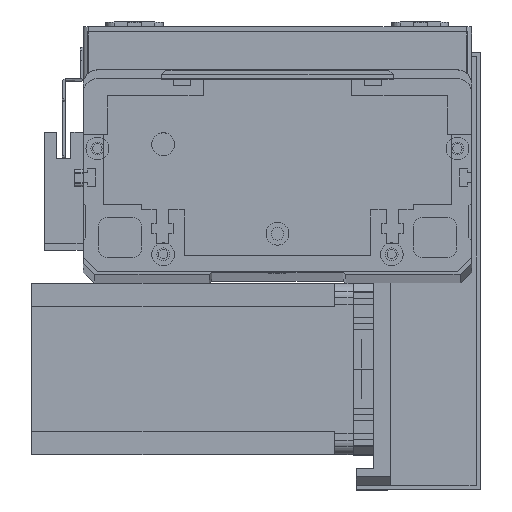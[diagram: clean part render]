
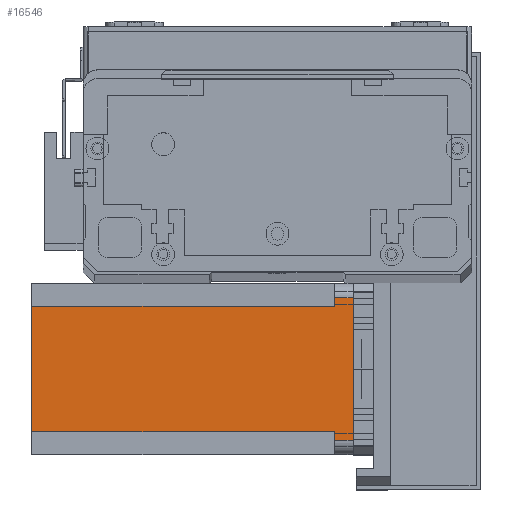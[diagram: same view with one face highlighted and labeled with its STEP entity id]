
A CAD part, top view. The second image highlights one B-rep face of the part: STEP entity #16546.
In plain terms, the highlighted planar face has unit normal (0, 0, 1) as drawn and (0, -1, 0) by its records, which use the part's own axes.
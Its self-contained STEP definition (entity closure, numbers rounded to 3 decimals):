
#441 = EDGE_CURVE ( 'NONE', #26133, #1637, #23125, .T. ) ;
#1163 = ORIENTED_EDGE ( 'NONE', *, *, #14217, .T. ) ;
#1637 = VERTEX_POINT ( 'NONE', #16424 ) ;
#1788 = VERTEX_POINT ( 'NONE', #9363 ) ;
#2490 = DIRECTION ( 'NONE',  ( 1., 0., 0. ) ) ;
#3461 = CARTESIAN_POINT ( 'NONE',  ( 5., 0., -112.5 ) ) ;
#3553 = DIRECTION ( 'NONE',  ( -1., 0., 0. ) ) ;
#3617 = ORIENTED_EDGE ( 'NONE', *, *, #441, .T. ) ;
#3639 = EDGE_LOOP ( 'NONE', ( #3617, #6269, #21401, #18724, #21428, #5772, #1163, #8796 ) ) ;
#3916 = EDGE_CURVE ( 'NONE', #23980, #24184, #23013, .T. ) ;
#3956 = CARTESIAN_POINT ( 'NONE',  ( 52., 0., -112.5 ) ) ;
#4244 = EDGE_CURVE ( 'NONE', #26133, #14030, #15903, .T. ) ;
#5248 = DIRECTION ( 'NONE',  ( 1., 0., 0. ) ) ;
#5398 = LINE ( 'NONE', #24529, #29046 ) ;
#5435 = CARTESIAN_POINT ( 'NONE',  ( 52., 0., -112.5 ) ) ;
#5772 = ORIENTED_EDGE ( 'NONE', *, *, #8271, .F. ) ;
#6269 = ORIENTED_EDGE ( 'NONE', *, *, #23984, .T. ) ;
#6714 = VECTOR ( 'NONE', #15249, 1000. ) ;
#7215 = CARTESIAN_POINT ( 'NONE',  ( 52., 0., -6.5 ) ) ;
#7977 = DIRECTION ( 'NONE',  ( 0., 0., 1. ) ) ;
#8271 = EDGE_CURVE ( 'NONE', #18511, #23980, #27732, .T. ) ;
#8435 = DIRECTION ( 'NONE',  ( 1., 0., 0. ) ) ;
#8796 = ORIENTED_EDGE ( 'NONE', *, *, #4244, .F. ) ;
#9363 = CARTESIAN_POINT ( 'NONE',  ( 55., 0., 0. ) ) ;
#9450 = AXIS2_PLACEMENT_3D ( 'NONE', #23934, #26191, #12508 ) ;
#9498 = VECTOR ( 'NONE', #21683, 1000. ) ;
#10133 = DIRECTION ( 'NONE',  ( 0., 0., -1. ) ) ;
#11224 = VERTEX_POINT ( 'NONE', #25618 ) ;
#12407 = PLANE ( 'NONE',  #9450 ) ;
#12508 = DIRECTION ( 'NONE',  ( 0., 0., -1. ) ) ;
#12837 = VECTOR ( 'NONE', #2490, 1000. ) ;
#13661 = LINE ( 'NONE', #3461, #6714 ) ;
#14030 = VERTEX_POINT ( 'NONE', #3956 ) ;
#14198 = CARTESIAN_POINT ( 'NONE',  ( 0., 0., -112.5 ) ) ;
#14217 = EDGE_CURVE ( 'NONE', #18511, #14030, #25713, .T. ) ;
#15249 = DIRECTION ( 'NONE',  ( 0., 0., -1. ) ) ;
#15903 = LINE ( 'NONE', #5435, #21938 ) ;
#16424 = CARTESIAN_POINT ( 'NONE',  ( 55., 0., -6.5 ) ) ;
#16546 = ADVANCED_FACE ( 'NONE', ( #21349 ), #12407, .T. ) ;
#16993 = VECTOR ( 'NONE', #3553, 1000. ) ;
#17384 = LINE ( 'NONE', #24080, #26150 ) ;
#18511 = VERTEX_POINT ( 'NONE', #26141 ) ;
#18724 = ORIENTED_EDGE ( 'NONE', *, *, #24038, .T. ) ;
#21349 = FACE_OUTER_BOUND ( 'NONE', #3639, .T. ) ;
#21401 = ORIENTED_EDGE ( 'NONE', *, *, #21528, .F. ) ;
#21428 = ORIENTED_EDGE ( 'NONE', *, *, #3916, .F. ) ;
#21528 = EDGE_CURVE ( 'NONE', #11224, #1788, #5398, .T. ) ;
#21683 = DIRECTION ( 'NONE',  ( 0., 0., 1. ) ) ;
#21802 = CARTESIAN_POINT ( 'NONE',  ( 8., 0., -6.5 ) ) ;
#21938 = VECTOR ( 'NONE', #10133, 1000. ) ;
#21984 = CARTESIAN_POINT ( 'NONE',  ( 8., 0., -6.5 ) ) ;
#22396 = VECTOR ( 'NONE', #5248, 1000. ) ;
#23013 = LINE ( 'NONE', #21984, #16993 ) ;
#23018 = CARTESIAN_POINT ( 'NONE',  ( 52., 0., -6.5 ) ) ;
#23125 = LINE ( 'NONE', #23018, #22396 ) ;
#23934 = CARTESIAN_POINT ( 'NONE',  ( 0., 0., -112.5 ) ) ;
#23980 = VERTEX_POINT ( 'NONE', #21802 ) ;
#23984 = EDGE_CURVE ( 'NONE', #1637, #1788, #17384, .T. ) ;
#24038 = EDGE_CURVE ( 'NONE', #11224, #24184, #13661, .T. ) ;
#24080 = CARTESIAN_POINT ( 'NONE',  ( 55., 0., -112.5 ) ) ;
#24184 = VERTEX_POINT ( 'NONE', #24767 ) ;
#24529 = CARTESIAN_POINT ( 'NONE',  ( 0., 0., 0. ) ) ;
#24767 = CARTESIAN_POINT ( 'NONE',  ( 5., 0., -6.5 ) ) ;
#25618 = CARTESIAN_POINT ( 'NONE',  ( 5., 0., 0. ) ) ;
#25713 = LINE ( 'NONE', #14198, #12837 ) ;
#26133 = VERTEX_POINT ( 'NONE', #7215 ) ;
#26141 = CARTESIAN_POINT ( 'NONE',  ( 8., 0., -112.5 ) ) ;
#26150 = VECTOR ( 'NONE', #7977, 1000. ) ;
#26191 = DIRECTION ( 'NONE',  ( 0., -1., 0. ) ) ;
#27732 = LINE ( 'NONE', #28463, #9498 ) ;
#28463 = CARTESIAN_POINT ( 'NONE',  ( 8., 0., -112.5 ) ) ;
#29046 = VECTOR ( 'NONE', #8435, 1000. ) ;
